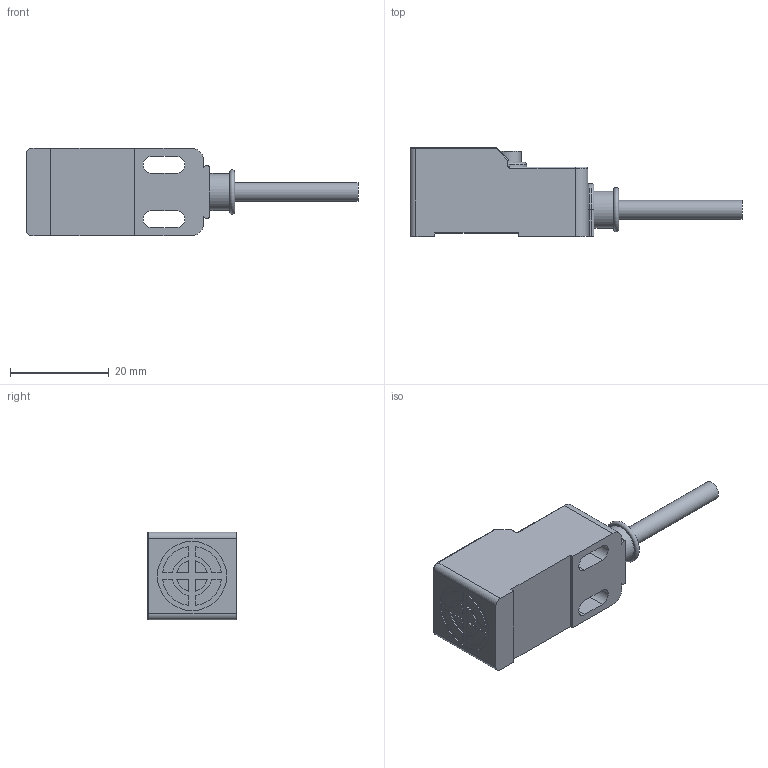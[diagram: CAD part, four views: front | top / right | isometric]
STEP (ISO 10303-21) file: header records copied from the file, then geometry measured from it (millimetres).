
FILE_DESCRIPTION(/* description */ (''),/* implementation_level */ '2;1');
FILE_NAME(/* name */ 'F:\HUAYIFENG\01)HUAYIFENG_宣传文件\HUAYIFENG_\X2\5BA34F2065874EF6\X0\_销售专用\HUAYIFENG_\X2\5BA34F2065874EF6\X0\_销售资料\05)产品销售资料_\X2\63A58FD17CFB5217\X0\\02)接近系列_3D\06)\X2\65B9578B63A58FD1\X0\\SN05.stp',/* time_stamp */ '2017-12-04T17:27:00+08:00',/* author */ ('fengjiarun'),/* organization */ (''),/* preprocessor_version */ 'ST-DEVELOPER v16.5',/* originating_system */ 'Autodesk Inventor 2017',/* authorisation */ '');
FILE_SCHEMA (('AUTOMOTIVE_DESIGN { 1 0 10303 214 3 1 1 }'));
Length unit declared in the file: millimetre
Products named in the file (1): 零件30
Bounding box: 67.25 x 18 x 17.7 mm (x, y, z)
Volume: 4506.1 mm3; surface area: 6881.5 mm2
Topology: 2 solids, 3 shells, 183 faces, 447 edges, 282 vertices
Faces by surface type: plane 81, cylinder 76, torus 22, sphere 4
Full cylindrical faces by diameter (mm): 3.8 x1, 3.85 x1, 4.5 x1, 5 x1, 5.05 x1, 5.9 x1, 7.5 x1, 14 x1
Entity records: 5566 total; most frequent: DIRECTION 973, CARTESIAN_POINT 937, ORIENTED_EDGE 862, EDGE_CURVE 431, AXIS2_PLACEMENT_3D 363, VERTEX_POINT 277, LINE 247, VECTOR 247
